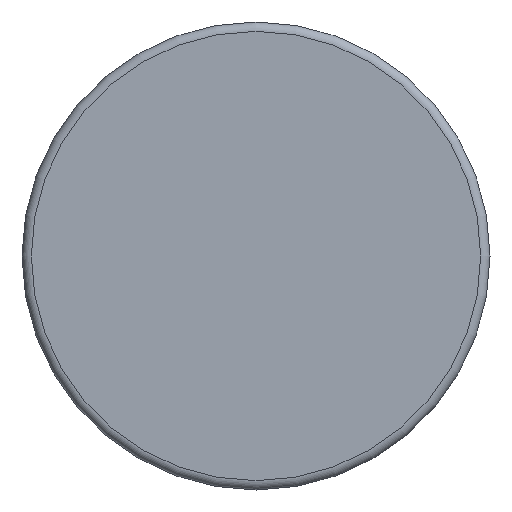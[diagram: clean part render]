
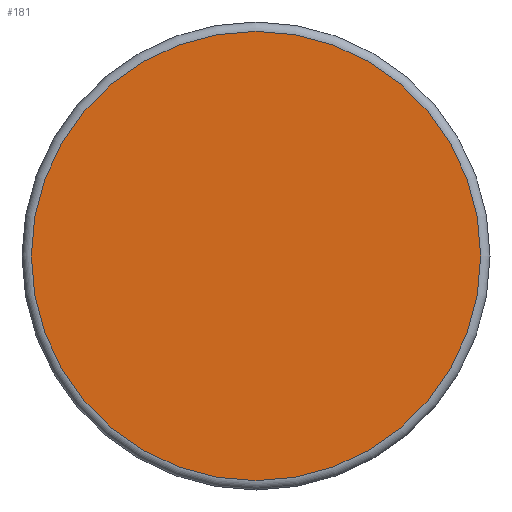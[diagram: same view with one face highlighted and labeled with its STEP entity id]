
A CAD part, front view. The second image highlights one B-rep face of the part: STEP entity #181.
In plain terms, the highlighted planar face has unit normal (0, -1, 0).
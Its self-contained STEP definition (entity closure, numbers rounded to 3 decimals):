
#181 = ADVANCED_FACE( '', ( #361 ), #362, .F. );
#361 = FACE_OUTER_BOUND( '', #561, .T. );
#362 = PLANE( '', #562 );
#561 = EDGE_LOOP( '', ( #840 ) );
#562 = AXIS2_PLACEMENT_3D( '', #841, #842, #843 );
#840 = ORIENTED_EDGE( '', *, *, #1189, .T. );
#841 = CARTESIAN_POINT( '', ( 24., 0., 0. ) );
#842 = DIRECTION( '', ( 0., 1., 0. ) );
#843 = DIRECTION( '', ( 0., 0., 1. ) );
#1189 = EDGE_CURVE( '', #1392, #1392, #1393, .T. );
#1392 = VERTEX_POINT( '', #1781 );
#1393 = CIRCLE( '', #1782, 24. );
#1781 = CARTESIAN_POINT( '', ( 0., 0., -24. ) );
#1782 = AXIS2_PLACEMENT_3D( '', #2072, #2073, #2074 );
#2072 = CARTESIAN_POINT( '', ( 0., 0., 0. ) );
#2073 = DIRECTION( '', ( 0., -1., 0. ) );
#2074 = DIRECTION( '', ( 0., 0., -1. ) );
